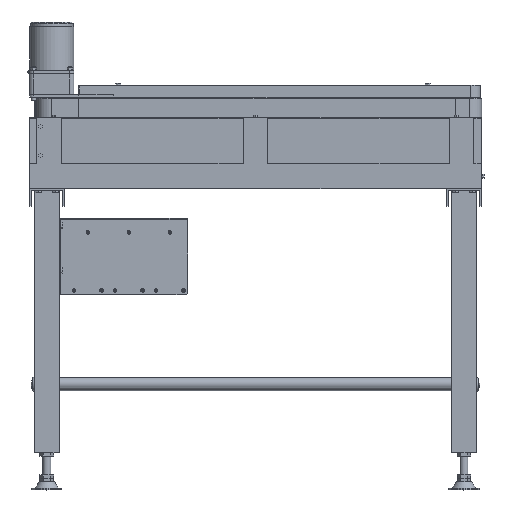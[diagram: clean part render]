
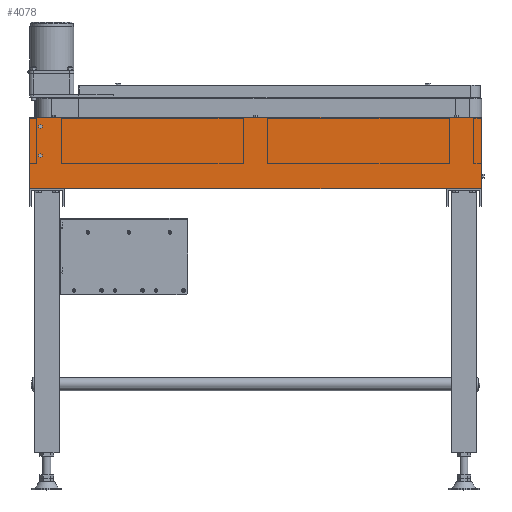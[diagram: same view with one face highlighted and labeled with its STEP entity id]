
A CAD part, top view. The second image highlights one B-rep face of the part: STEP entity #4078.
In plain terms, the highlighted planar face has unit normal (0, 0, 1).
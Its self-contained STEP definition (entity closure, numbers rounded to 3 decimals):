
#4078=ADVANCED_FACE('',(#13169,#13170,#13171),#13168,.T.);
#13168=PLANE('',#36499);
#13169=FACE_OUTER_BOUND('',#36500,.T.);
#13170=FACE_BOUND('',#36501,.T.);
#13171=FACE_BOUND('',#36502,.T.);
#36496=CARTESIAN_POINT('',(-10.,-150.,252.));
#36497=DIRECTION('',(0.,0.,1.));
#36498=DIRECTION('',(1.,0.,0.));
#36499=AXIS2_PLACEMENT_3D('',#36496,#36497,#36498);
#36500=EDGE_LOOP('',(#52172,#52173,#52174,#52175));
#36501=EDGE_LOOP('',(#52176,#52177,#52178,#52179,#52180,#52181));
#36502=EDGE_LOOP('',(#52182,#52183,#52184,#52185,#52186,#52187));
#52172=ORIENTED_EDGE('',*,*,#63901,.F.);
#52173=ORIENTED_EDGE('',*,*,#63902,.T.);
#52174=ORIENTED_EDGE('',*,*,#63903,.T.);
#52175=ORIENTED_EDGE('',*,*,#63904,.F.);
#52176=ORIENTED_EDGE('',*,*,#63905,.F.);
#52177=ORIENTED_EDGE('',*,*,#63906,.F.);
#52178=ORIENTED_EDGE('',*,*,#63907,.F.);
#52179=ORIENTED_EDGE('',*,*,#63908,.F.);
#52180=ORIENTED_EDGE('',*,*,#63909,.F.);
#52181=ORIENTED_EDGE('',*,*,#63910,.F.);
#52182=ORIENTED_EDGE('',*,*,#63911,.F.);
#52183=ORIENTED_EDGE('',*,*,#63912,.F.);
#52184=ORIENTED_EDGE('',*,*,#63913,.F.);
#52185=ORIENTED_EDGE('',*,*,#63914,.F.);
#52186=ORIENTED_EDGE('',*,*,#63915,.F.);
#52187=ORIENTED_EDGE('',*,*,#63916,.F.);
#63901=EDGE_CURVE('',#81202,#81203,#81204,.T.);
#63902=EDGE_CURVE('',#81202,#81210,#81211,.T.);
#63903=EDGE_CURVE('',#81210,#81217,#81218,.T.);
#63904=EDGE_CURVE('',#81203,#81217,#81224,.T.);
#63905=EDGE_CURVE('',#81230,#81231,#81232,.T.);
#63906=EDGE_CURVE('',#81238,#81230,#81239,.T.);
#63907=EDGE_CURVE('',#81245,#81238,#81246,.T.);
#63908=EDGE_CURVE('',#81252,#81245,#81253,.T.);
#63909=EDGE_CURVE('',#81259,#81252,#81260,.T.);
#63910=EDGE_CURVE('',#81231,#81259,#81266,.T.);
#63911=EDGE_CURVE('',#81272,#81273,#81274,.T.);
#63912=EDGE_CURVE('',#81280,#81272,#81281,.T.);
#63913=EDGE_CURVE('',#81287,#81280,#81288,.T.);
#63914=EDGE_CURVE('',#81294,#81287,#81295,.T.);
#63915=EDGE_CURVE('',#81301,#81294,#81302,.T.);
#63916=EDGE_CURVE('',#81273,#81301,#81308,.T.);
#81202=VERTEX_POINT('',#121225);
#81203=VERTEX_POINT('',#121226);
#81204=LINE('',#121227,#121228);
#81210=VERTEX_POINT('',#121230);
#81211=LINE('',#121231,#121232);
#81217=VERTEX_POINT('',#121234);
#81218=LINE('',#121235,#121236);
#81224=LINE('',#121238,#121239);
#81230=VERTEX_POINT('',#121241);
#81231=VERTEX_POINT('',#121242);
#81232=LINE('',#121243,#121244);
#81238=VERTEX_POINT('',#121246);
#81239=LINE('',#121247,#121248);
#81245=VERTEX_POINT('',#121250);
#81246=LINE('',#121251,#121252);
#81252=VERTEX_POINT('',#121254);
#81253=LINE('',#121255,#121256);
#81259=VERTEX_POINT('',#121258);
#81260=LINE('',#121259,#121260);
#81266=LINE('',#121262,#121263);
#81272=VERTEX_POINT('',#121265);
#81273=VERTEX_POINT('',#121266);
#81274=LINE('',#121267,#121268);
#81280=VERTEX_POINT('',#121270);
#81281=LINE('',#121271,#121272);
#81287=VERTEX_POINT('',#121274);
#81288=LINE('',#121275,#121276);
#81294=VERTEX_POINT('',#121278);
#81295=LINE('',#121279,#121280);
#81301=VERTEX_POINT('',#121282);
#81302=LINE('',#121283,#121284);
#81308=LINE('',#121286,#121287);
#121225=CARTESIAN_POINT('',(915.,-140.,252.));
#121226=CARTESIAN_POINT('',(0.,-140.,252.));
#121227=CARTESIAN_POINT('',(915.,-140.,252.));
#121228=VECTOR('',#121229,915.);
#121229=DIRECTION('',(-1.,0.,0.));
#121230=CARTESIAN_POINT('',(915.,4.,252.));
#121231=CARTESIAN_POINT('',(915.,-140.,252.));
#121232=VECTOR('',#121233,144.);
#121233=DIRECTION('',(0.,1.,0.));
#121234=CARTESIAN_POINT('',(0.,4.,252.));
#121235=CARTESIAN_POINT('',(915.,4.,252.));
#121236=VECTOR('',#121237,915.);
#121237=DIRECTION('',(-1.,0.,0.));
#121238=CARTESIAN_POINT('',(0.,-140.,252.));
#121239=VECTOR('',#121240,144.);
#121240=DIRECTION('',(0.,1.,0.));
#121241=CARTESIAN_POINT('',(18.5,-16.021,252.));
#121242=CARTESIAN_POINT('',(22.,-18.041,252.));
#121243=CARTESIAN_POINT('',(18.5,-16.021,252.));
#121244=VECTOR('',#121245,4.041);
#121245=DIRECTION('',(0.866,-0.5,0.));
#121246=CARTESIAN_POINT('',(18.5,-11.979,252.));
#121247=CARTESIAN_POINT('',(18.5,-11.979,252.));
#121248=VECTOR('',#121249,4.041);
#121249=DIRECTION('',(0.,-1.,0.));
#121250=CARTESIAN_POINT('',(22.,-9.959,252.));
#121251=CARTESIAN_POINT('',(22.,-9.959,252.));
#121252=VECTOR('',#121253,4.041);
#121253=DIRECTION('',(-0.866,-0.5,0.));
#121254=CARTESIAN_POINT('',(25.5,-11.979,252.));
#121255=CARTESIAN_POINT('',(25.5,-11.979,252.));
#121256=VECTOR('',#121257,4.041);
#121257=DIRECTION('',(-0.866,0.5,0.));
#121258=CARTESIAN_POINT('',(25.5,-16.021,252.));
#121259=CARTESIAN_POINT('',(25.5,-16.021,252.));
#121260=VECTOR('',#121261,4.041);
#121261=DIRECTION('',(0.,1.,0.));
#121262=CARTESIAN_POINT('',(22.,-18.041,252.));
#121263=VECTOR('',#121264,4.041);
#121264=DIRECTION('',(0.866,0.5,0.));
#121265=CARTESIAN_POINT('',(18.5,-76.021,252.));
#121266=CARTESIAN_POINT('',(22.,-78.041,252.));
#121267=CARTESIAN_POINT('',(18.5,-76.021,252.));
#121268=VECTOR('',#121269,4.041);
#121269=DIRECTION('',(0.866,-0.5,0.));
#121270=CARTESIAN_POINT('',(18.5,-71.979,252.));
#121271=CARTESIAN_POINT('',(18.5,-71.979,252.));
#121272=VECTOR('',#121273,4.041);
#121273=DIRECTION('',(0.,-1.,0.));
#121274=CARTESIAN_POINT('',(22.,-69.959,252.));
#121275=CARTESIAN_POINT('',(22.,-69.959,252.));
#121276=VECTOR('',#121277,4.041);
#121277=DIRECTION('',(-0.866,-0.5,0.));
#121278=CARTESIAN_POINT('',(25.5,-71.979,252.));
#121279=CARTESIAN_POINT('',(25.5,-71.979,252.));
#121280=VECTOR('',#121281,4.041);
#121281=DIRECTION('',(-0.866,0.5,0.));
#121282=CARTESIAN_POINT('',(25.5,-76.021,252.));
#121283=CARTESIAN_POINT('',(25.5,-76.021,252.));
#121284=VECTOR('',#121285,4.041);
#121285=DIRECTION('',(0.,1.,0.));
#121286=CARTESIAN_POINT('',(22.,-78.041,252.));
#121287=VECTOR('',#121288,4.041);
#121288=DIRECTION('',(0.866,0.5,0.));
